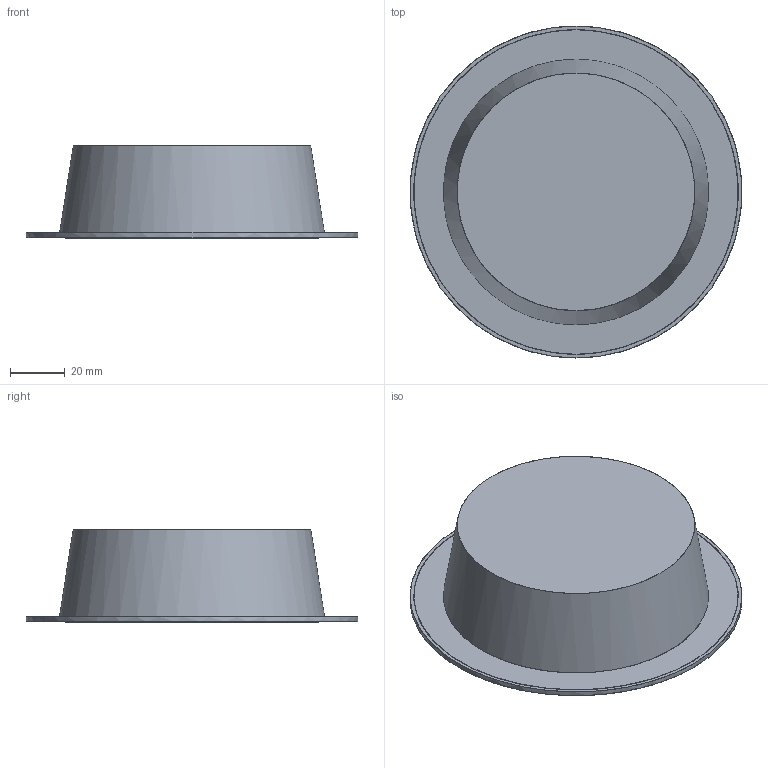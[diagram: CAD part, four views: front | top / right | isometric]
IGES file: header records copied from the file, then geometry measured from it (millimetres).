
Start section: SolidWorks IGES file using NURBS representation for surfaces
Global section: file name: Z:\Modele 3D_WWW\_Commercial\CL-KOS-LED\CL-KOS-LED-8W-8782-8781\CL-KOS-LED-8W-8782-8781.IGS; native system: SolidWorks 2021; preprocessor: SolidWorks 2021; author: gabriela.tworek; date: 220218.142113; units: millimetre
Bounding box: 120.76 x 120.96 x 33.71 mm (x, y, z)
Surface area: 49755.3 mm2 (no closed solid volume)
Topology: 0 solids, 0 shells, 14 faces, 55 edges, 48 vertices
Faces by surface type: bspline 14
